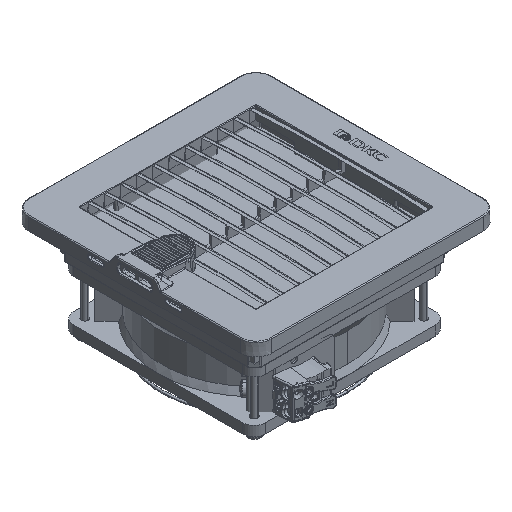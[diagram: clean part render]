
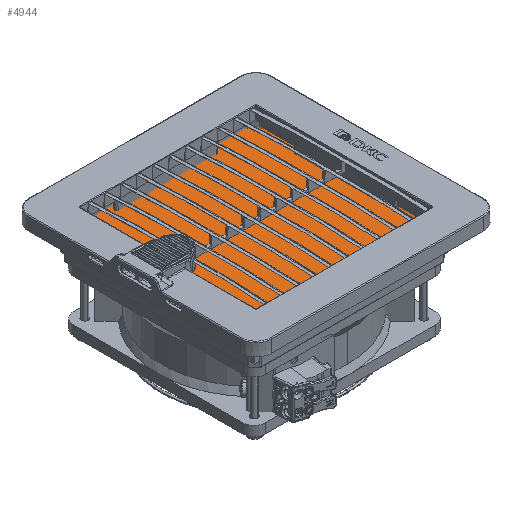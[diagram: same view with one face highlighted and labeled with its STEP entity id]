
A CAD part, isometric view. The second image highlights one B-rep face of the part: STEP entity #4944.
In plain terms, the highlighted planar face has unit normal (0, 0, 1).
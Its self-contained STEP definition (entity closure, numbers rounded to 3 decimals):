
#4944 = ADVANCED_FACE ( 'NONE', ( #193580 ), #75876, .F. ) ;
#17208 = LINE ( 'NONE', #39198, #17628 ) ;
#17628 = VECTOR ( 'NONE', #87735, 1000. ) ;
#20787 = CARTESIAN_POINT ( 'NONE',  ( 0., 0., 10. ) ) ;
#25494 = EDGE_CURVE ( 'NONE', #26794, #61023, #55505, .T. ) ;
#26794 = VERTEX_POINT ( 'NONE', #183006 ) ;
#29053 = LINE ( 'NONE', #199687, #147598 ) ;
#30603 = EDGE_CURVE ( 'NONE', #216772, #26794, #125913, .T. ) ;
#31387 = ORIENTED_EDGE ( 'NONE', *, *, #162975, .T. ) ;
#33216 = VERTEX_POINT ( 'NONE', #131033 ) ;
#39198 = CARTESIAN_POINT ( 'NONE',  ( -60., 60., 10. ) ) ;
#43527 = CARTESIAN_POINT ( 'NONE',  ( 60., -60., 10. ) ) ;
#52217 = CARTESIAN_POINT ( 'NONE',  ( -60., -60., 10. ) ) ;
#55505 = LINE ( 'NONE', #52217, #211492 ) ;
#61023 = VERTEX_POINT ( 'NONE', #43527 ) ;
#64032 = ORIENTED_EDGE ( 'NONE', *, *, #25494, .T. ) ;
#73699 = DIRECTION ( 'NONE',  ( 0., 0., -1. ) ) ;
#75876 = PLANE ( 'NONE',  #215887 ) ;
#87735 = DIRECTION ( 'NONE',  ( -1., 0., 0. ) ) ;
#88048 = DIRECTION ( 'NONE',  ( -1., 0., 0. ) ) ;
#93584 = CARTESIAN_POINT ( 'NONE',  ( -60., 60., 10. ) ) ;
#125913 = LINE ( 'NONE', #127006, #178146 ) ;
#127006 = CARTESIAN_POINT ( 'NONE',  ( -60., -60., 10. ) ) ;
#130860 = EDGE_CURVE ( 'NONE', #33216, #216772, #17208, .T. ) ;
#131033 = CARTESIAN_POINT ( 'NONE',  ( 60., 60., 10. ) ) ;
#143539 = DIRECTION ( 'NONE',  ( 0., -1., 0. ) ) ;
#146891 = ORIENTED_EDGE ( 'NONE', *, *, #130860, .T. ) ;
#147598 = VECTOR ( 'NONE', #178824, 1000. ) ;
#162975 = EDGE_CURVE ( 'NONE', #61023, #33216, #29053, .T. ) ;
#171128 = DIRECTION ( 'NONE',  ( 1., 0., 0. ) ) ;
#178146 = VECTOR ( 'NONE', #143539, 1000. ) ;
#178824 = DIRECTION ( 'NONE',  ( 0., 1., 0. ) ) ;
#183006 = CARTESIAN_POINT ( 'NONE',  ( -60., -60., 10. ) ) ;
#191118 = ORIENTED_EDGE ( 'NONE', *, *, #30603, .T. ) ;
#193580 = FACE_OUTER_BOUND ( 'NONE', #205207, .T. ) ;
#199687 = CARTESIAN_POINT ( 'NONE',  ( 60., -60., 10. ) ) ;
#205207 = EDGE_LOOP ( 'NONE', ( #31387, #146891, #191118, #64032 ) ) ;
#211492 = VECTOR ( 'NONE', #171128, 1000. ) ;
#215887 = AXIS2_PLACEMENT_3D ( 'NONE', #20787, #73699, #88048 ) ;
#216772 = VERTEX_POINT ( 'NONE', #93584 ) ;
